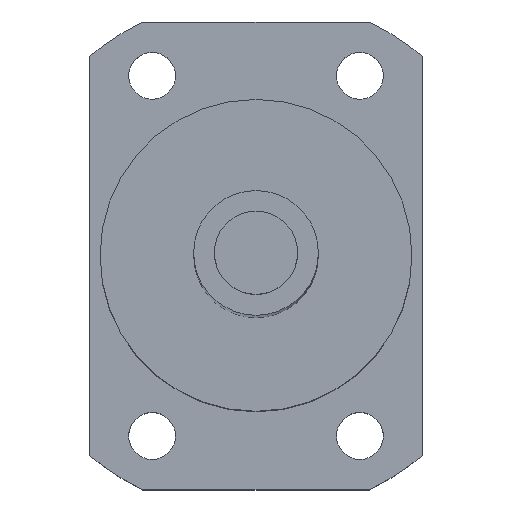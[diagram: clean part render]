
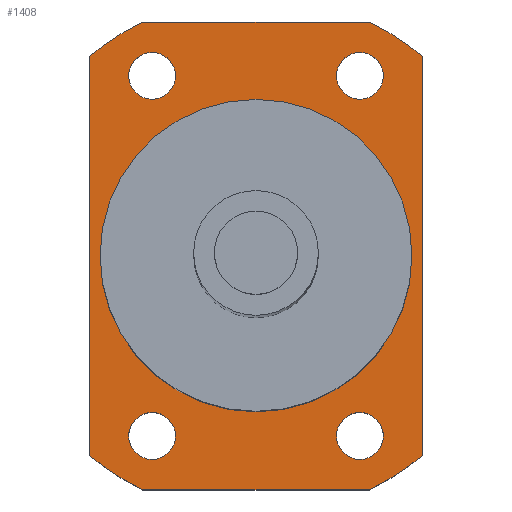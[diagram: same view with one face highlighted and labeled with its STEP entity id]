
A CAD part, top view. The second image highlights one B-rep face of the part: STEP entity #1408.
In plain terms, the highlighted planar face has unit normal (0, 0, 1).
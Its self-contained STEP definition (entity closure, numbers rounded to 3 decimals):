
#328=CARTESIAN_POINT('',(10.,17.321,205.));
#329=DIRECTION('',(0.,0.,-1.));
#330=DIRECTION('',(1.,0.,0.));
#331=AXIS2_PLACEMENT_3D('',#328,#329,#330);
#333=CARTESIAN_POINT('',(10.,17.321,205.));
#334=DIRECTION('',(0.,0.,-1.));
#335=DIRECTION('',(-1.,0.,0.));
#336=AXIS2_PLACEMENT_3D('',#333,#334,#335);
#338=CARTESIAN_POINT('',(-10.,17.321,205.));
#339=DIRECTION('',(0.,0.,-1.));
#340=DIRECTION('',(1.,0.,0.));
#341=AXIS2_PLACEMENT_3D('',#338,#339,#340);
#343=CARTESIAN_POINT('',(-10.,17.321,205.));
#344=DIRECTION('',(0.,0.,-1.));
#345=DIRECTION('',(-1.,0.,0.));
#346=AXIS2_PLACEMENT_3D('',#343,#344,#345);
#348=CARTESIAN_POINT('',(10.,-17.321,205.));
#349=DIRECTION('',(0.,0.,-1.));
#350=DIRECTION('',(1.,0.,0.));
#351=AXIS2_PLACEMENT_3D('',#348,#349,#350);
#353=CARTESIAN_POINT('',(10.,-17.321,205.));
#354=DIRECTION('',(0.,0.,-1.));
#355=DIRECTION('',(-1.,0.,0.));
#356=AXIS2_PLACEMENT_3D('',#353,#354,#355);
#358=CARTESIAN_POINT('',(-10.,-17.321,205.));
#359=DIRECTION('',(0.,0.,-1.));
#360=DIRECTION('',(1.,0.,0.));
#361=AXIS2_PLACEMENT_3D('',#358,#359,#360);
#363=CARTESIAN_POINT('',(-10.,-17.321,205.));
#364=DIRECTION('',(0.,0.,-1.));
#365=DIRECTION('',(-1.,0.,0.));
#366=AXIS2_PLACEMENT_3D('',#363,#364,#365);
#368=CARTESIAN_POINT('',(0.,0.,205.));
#369=DIRECTION('',(0.,0.,1.));
#370=DIRECTION('',(1.,0.,0.));
#371=AXIS2_PLACEMENT_3D('',#368,#369,#370);
#373=CARTESIAN_POINT('',(0.,0.,205.));
#374=DIRECTION('',(0.,0.,1.));
#375=DIRECTION('',(-1.,0.,0.));
#376=AXIS2_PLACEMENT_3D('',#373,#374,#375);
#378=DIRECTION('',(1.,0.,0.));
#379=VECTOR('',#378,21.794);
#380=CARTESIAN_POINT('',(-10.897,22.5,205.));
#381=LINE('',#380,#379);
#382=CARTESIAN_POINT('',(0.,0.,205.));
#383=DIRECTION('',(0.,0.,1.));
#384=DIRECTION('',(0.64,0.768,0.));
#385=AXIS2_PLACEMENT_3D('',#382,#383,#384);
#387=DIRECTION('',(0.,1.,0.));
#388=VECTOR('',#387,38.419);
#389=CARTESIAN_POINT('',(16.,-19.209,205.));
#390=LINE('',#389,#388);
#391=CARTESIAN_POINT('',(0.,0.,205.));
#392=DIRECTION('',(0.,0.,1.));
#393=DIRECTION('',(0.436,-0.9,0.));
#394=AXIS2_PLACEMENT_3D('',#391,#392,#393);
#396=DIRECTION('',(1.,0.,0.));
#397=VECTOR('',#396,21.794);
#398=CARTESIAN_POINT('',(-10.897,-22.5,205.));
#399=LINE('',#398,#397);
#400=CARTESIAN_POINT('',(0.,0.,205.));
#401=DIRECTION('',(0.,0.,1.));
#402=DIRECTION('',(-0.64,-0.768,0.));
#403=AXIS2_PLACEMENT_3D('',#400,#401,#402);
#405=DIRECTION('',(0.,-1.,0.));
#406=VECTOR('',#405,38.419);
#407=CARTESIAN_POINT('',(-16.,19.209,205.));
#408=LINE('',#407,#406);
#409=CARTESIAN_POINT('',(0.,0.,205.));
#410=DIRECTION('',(0.,0.,1.));
#411=DIRECTION('',(-0.436,0.9,0.));
#412=AXIS2_PLACEMENT_3D('',#409,#410,#411);
#721=CARTESIAN_POINT('',(12.25,17.321,205.));
#722=CARTESIAN_POINT('',(7.75,17.321,205.));
#723=VERTEX_POINT('',#721);
#724=VERTEX_POINT('',#722);
#725=CARTESIAN_POINT('',(-7.75,17.321,205.));
#726=CARTESIAN_POINT('',(-12.25,17.321,205.));
#727=VERTEX_POINT('',#725);
#728=VERTEX_POINT('',#726);
#729=CARTESIAN_POINT('',(12.25,-17.321,205.));
#730=CARTESIAN_POINT('',(7.75,-17.321,205.));
#731=VERTEX_POINT('',#729);
#732=VERTEX_POINT('',#730);
#733=CARTESIAN_POINT('',(-7.75,-17.321,205.));
#734=CARTESIAN_POINT('',(-12.25,-17.321,205.));
#735=VERTEX_POINT('',#733);
#736=VERTEX_POINT('',#734);
#737=CARTESIAN_POINT('',(-16.,19.209,205.));
#738=CARTESIAN_POINT('',(-16.,-19.209,205.));
#739=VERTEX_POINT('',#737);
#740=VERTEX_POINT('',#738);
#741=CARTESIAN_POINT('',(16.,-19.209,205.));
#742=CARTESIAN_POINT('',(16.,19.209,205.));
#743=VERTEX_POINT('',#741);
#744=VERTEX_POINT('',#742);
#753=CARTESIAN_POINT('',(15.,0.,205.));
#754=CARTESIAN_POINT('',(-15.,0.,205.));
#755=VERTEX_POINT('',#753);
#756=VERTEX_POINT('',#754);
#829=CARTESIAN_POINT('',(-10.897,22.5,205.));
#830=CARTESIAN_POINT('',(10.897,22.5,205.));
#831=VERTEX_POINT('',#829);
#832=VERTEX_POINT('',#830);
#833=CARTESIAN_POINT('',(-10.897,-22.5,205.));
#834=CARTESIAN_POINT('',(10.897,-22.5,205.));
#835=VERTEX_POINT('',#833);
#836=VERTEX_POINT('',#834);
#1357=CARTESIAN_POINT('',(0.,0.,205.));
#1358=DIRECTION('',(0.,0.,1.));
#1359=DIRECTION('',(1.,0.,0.));
#1360=AXIS2_PLACEMENT_3D('',#1357,#1358,#1359);
#1361=PLANE('',#1360);
#1363=ORIENTED_EDGE('',*,*,#1362,.T.);
#1365=ORIENTED_EDGE('',*,*,#1364,.F.);
#1367=ORIENTED_EDGE('',*,*,#1366,.F.);
#1369=ORIENTED_EDGE('',*,*,#1368,.F.);
#1371=ORIENTED_EDGE('',*,*,#1370,.F.);
#1373=ORIENTED_EDGE('',*,*,#1372,.F.);
#1375=ORIENTED_EDGE('',*,*,#1374,.F.);
#1377=ORIENTED_EDGE('',*,*,#1376,.F.);
#1378=EDGE_LOOP('',(#1363,#1365,#1367,#1369,#1371,#1373,#1375,#1377));
#1379=FACE_OUTER_BOUND('',#1378,.F.);
#1380=ORIENTED_EDGE('',*,*,#1337,.F.);
#1381=ORIENTED_EDGE('',*,*,#1351,.F.);
#1382=EDGE_LOOP('',(#1380,#1381));
#1383=FACE_BOUND('',#1382,.F.);
#1385=ORIENTED_EDGE('',*,*,#1384,.F.);
#1387=ORIENTED_EDGE('',*,*,#1386,.F.);
#1388=EDGE_LOOP('',(#1385,#1387));
#1389=FACE_BOUND('',#1388,.F.);
#1391=ORIENTED_EDGE('',*,*,#1390,.F.);
#1393=ORIENTED_EDGE('',*,*,#1392,.F.);
#1394=EDGE_LOOP('',(#1391,#1393));
#1395=FACE_BOUND('',#1394,.F.);
#1397=ORIENTED_EDGE('',*,*,#1396,.F.);
#1399=ORIENTED_EDGE('',*,*,#1398,.F.);
#1400=EDGE_LOOP('',(#1397,#1399));
#1401=FACE_BOUND('',#1400,.F.);
#1403=ORIENTED_EDGE('',*,*,#1402,.T.);
#1405=ORIENTED_EDGE('',*,*,#1404,.T.);
#1406=EDGE_LOOP('',(#1403,#1405));
#1407=FACE_BOUND('',#1406,.F.);
#1408=ADVANCED_FACE('',(#1379,#1383,#1389,#1395,#1401,#1407),#1361,.T.);
#332=CIRCLE('',#331,2.25);
#337=CIRCLE('',#336,2.25);
#342=CIRCLE('',#341,2.25);
#347=CIRCLE('',#346,2.25);
#352=CIRCLE('',#351,2.25);
#357=CIRCLE('',#356,2.25);
#362=CIRCLE('',#361,2.25);
#367=CIRCLE('',#366,2.25);
#372=CIRCLE('',#371,15.);
#377=CIRCLE('',#376,15.);
#386=CIRCLE('',#385,25.);
#395=CIRCLE('',#394,25.);
#404=CIRCLE('',#403,25.);
#413=CIRCLE('',#412,25.);
#1337=EDGE_CURVE('',#723,#724,#332,.T.);
#1351=EDGE_CURVE('',#724,#723,#337,.T.);
#1362=EDGE_CURVE('',#831,#832,#381,.T.);
#1364=EDGE_CURVE('',#744,#832,#386,.T.);
#1366=EDGE_CURVE('',#743,#744,#390,.T.);
#1368=EDGE_CURVE('',#836,#743,#395,.T.);
#1370=EDGE_CURVE('',#835,#836,#399,.T.);
#1372=EDGE_CURVE('',#740,#835,#404,.T.);
#1374=EDGE_CURVE('',#739,#740,#408,.T.);
#1376=EDGE_CURVE('',#831,#739,#413,.T.);
#1384=EDGE_CURVE('',#727,#728,#342,.T.);
#1386=EDGE_CURVE('',#728,#727,#347,.T.);
#1390=EDGE_CURVE('',#731,#732,#352,.T.);
#1392=EDGE_CURVE('',#732,#731,#357,.T.);
#1396=EDGE_CURVE('',#735,#736,#362,.T.);
#1398=EDGE_CURVE('',#736,#735,#367,.T.);
#1402=EDGE_CURVE('',#755,#756,#372,.T.);
#1404=EDGE_CURVE('',#756,#755,#377,.T.);
